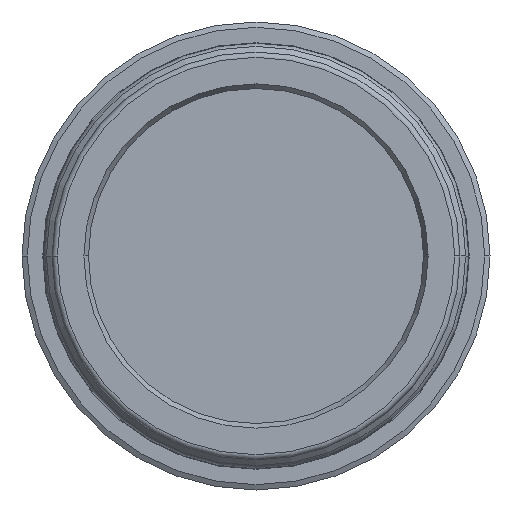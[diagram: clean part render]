
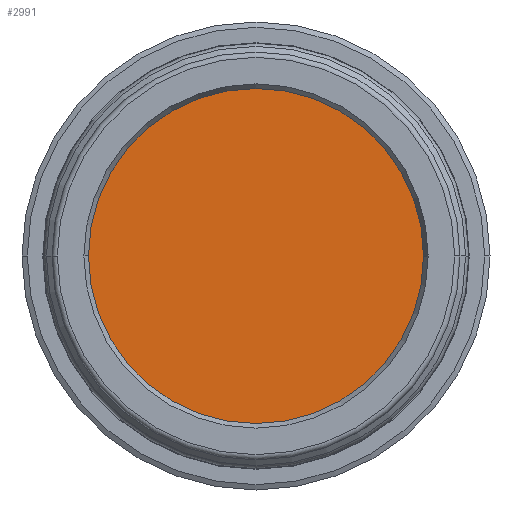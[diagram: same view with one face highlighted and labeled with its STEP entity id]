
A CAD part, front view. The second image highlights one B-rep face of the part: STEP entity #2991.
In plain terms, the highlighted planar face has unit normal (0, -1, 0).
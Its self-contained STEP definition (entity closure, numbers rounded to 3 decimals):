
#216 = DIRECTION ( 'NONE',  ( 0., -1., 0. ) ) ;
#458 = DIRECTION ( 'NONE',  ( 0., -1., 0. ) ) ;
#888 = ORIENTED_EDGE ( 'NONE', *, *, #10841, .T. ) ;
#2347 = PLANE ( 'NONE',  #11047 ) ;
#2595 = EDGE_CURVE ( 'NONE', #7848, #11189, #10694, .T. ) ;
#2653 = CARTESIAN_POINT ( 'NONE',  ( 0., 0., 31.5 ) ) ;
#2991 = ADVANCED_FACE ( 'NONE', ( #6425 ), #2347, .T. ) ;
#3373 = EDGE_LOOP ( 'NONE', ( #888, #3601 ) ) ;
#3601 = ORIENTED_EDGE ( 'NONE', *, *, #2595, .T. ) ;
#3836 = DIRECTION ( 'NONE',  ( 0., 0., -1. ) ) ;
#3959 = AXIS2_PLACEMENT_3D ( 'NONE', #9856, #458, #3836 ) ;
#4461 = CIRCLE ( 'NONE', #3959, 31.5 ) ;
#4629 = DIRECTION ( 'NONE',  ( 0., 0., -1. ) ) ;
#5449 = CARTESIAN_POINT ( 'NONE',  ( 0., 0., 0. ) ) ;
#6425 = FACE_OUTER_BOUND ( 'NONE', #3373, .T. ) ;
#7848 = VERTEX_POINT ( 'NONE', #2653 ) ;
#8329 = DIRECTION ( 'NONE',  ( 0., -1., 0. ) ) ;
#9288 = CARTESIAN_POINT ( 'NONE',  ( 0., 0., 0. ) ) ;
#9856 = CARTESIAN_POINT ( 'NONE',  ( 0., 0., 0. ) ) ;
#10093 = DIRECTION ( 'NONE',  ( 0., 0., -1. ) ) ;
#10694 = CIRCLE ( 'NONE', #10884, 31.5 ) ;
#10841 = EDGE_CURVE ( 'NONE', #11189, #7848, #4461, .T. ) ;
#10884 = AXIS2_PLACEMENT_3D ( 'NONE', #5449, #216, #4629 ) ;
#11047 = AXIS2_PLACEMENT_3D ( 'NONE', #9288, #8329, #10093 ) ;
#11142 = CARTESIAN_POINT ( 'NONE',  ( 0., 0., -31.5 ) ) ;
#11189 = VERTEX_POINT ( 'NONE', #11142 ) ;
